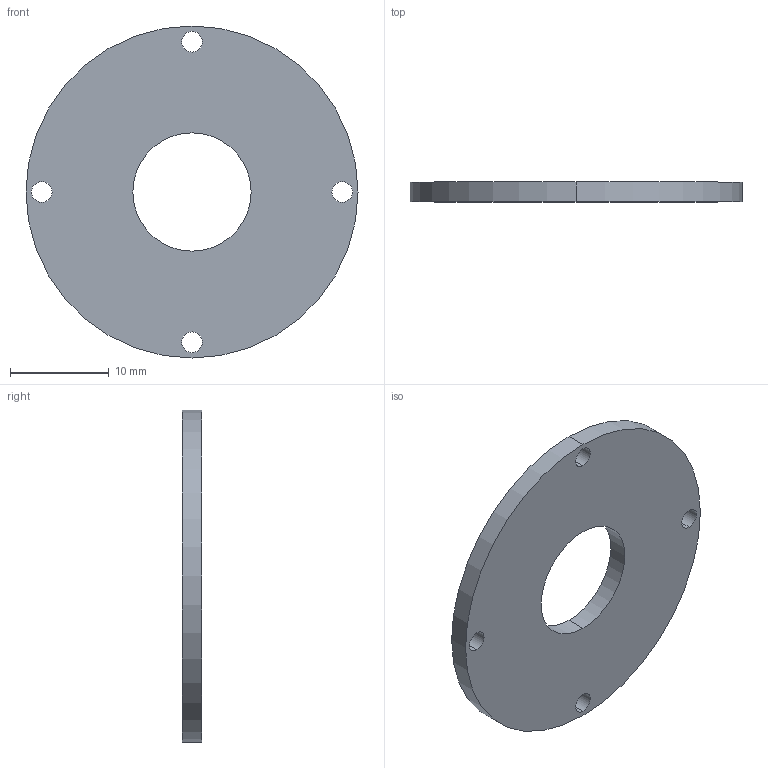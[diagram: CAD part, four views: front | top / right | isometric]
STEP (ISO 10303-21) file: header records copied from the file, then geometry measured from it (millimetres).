
FILE_DESCRIPTION (( 'STEP AP214' ), '1' );
FILE_NAME ('LSQ-XX-033-1-DIFFUSER-F.STEP', '2019-05-06T02:19:55', ( '' ), ( '' ), 'SwSTEP 2.0', 'SolidWorks 2018', '' );
FILE_SCHEMA (( 'AUTOMOTIVE_DESIGN' ));
Length unit declared in the file: millimetre
Products named in the file (1): LSQ-XX-033-1-DIFFUSER-F
Bounding box: 33.7 x 2 x 33.7 mm (x, y, z)
Volume: 1530 mm3; surface area: 1870 mm2
Topology: 1 solids, 1 shells, 14 faces, 36 edges, 24 vertices
Faces by surface type: cylinder 12, plane 2
Entity records: 498 total; most frequent: DIRECTION 90, CARTESIAN_POINT 75, ORIENTED_EDGE 72, AXIS2_PLACEMENT_3D 39, EDGE_CURVE 36, CIRCLE 24, EDGE_LOOP 24, VERTEX_POINT 24
